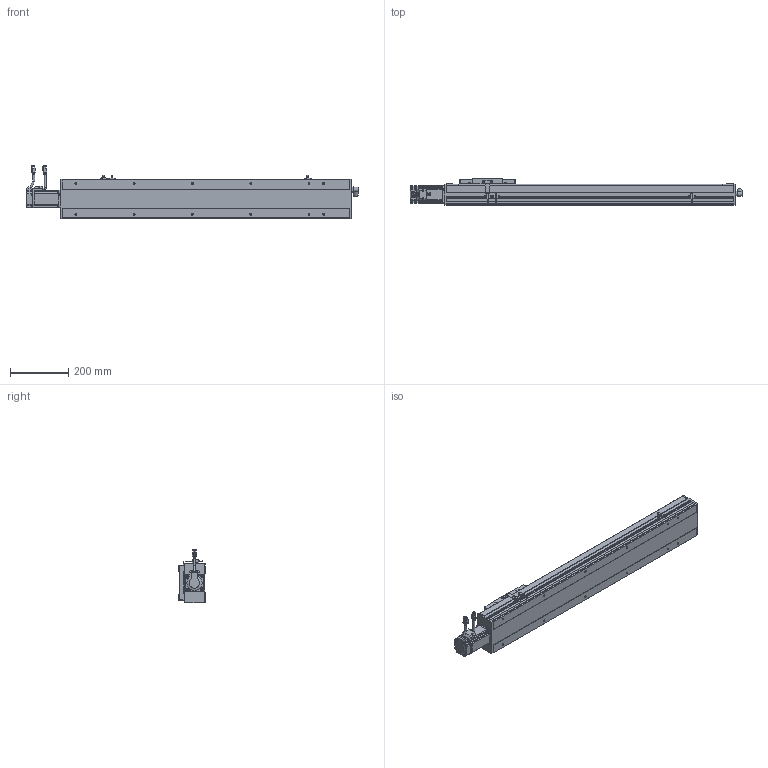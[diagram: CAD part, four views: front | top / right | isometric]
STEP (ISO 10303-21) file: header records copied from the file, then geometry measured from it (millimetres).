
FILE_DESCRIPTION(/* description */ ('STEP AP214'),/* implementation_level */ '2;1');
FILE_NAME(/* name */ 'PSC140-L05-S700-BC-P40-C1-N(0)',/* time_stamp */ '2022-06-13T03:14:54+02:00',/* author */ ('License CC BY-ND 4.0'),/* organization */ ('CADENAS'),/* preprocessor_version */ 'ST-DEVELOPER v18.102',/* originating_system */ 'PARTsolutions',/* authorisation */ ' ');
FILE_SCHEMA (('AUTOMOTIVE_DESIGN {1 0 10303 214 3 1 1}'));
Length unit declared in the file: millimetre
Products named in the file (10): PSC140-L05-S700-BC-P40-C1-N(0); P40-s2; P40-c2; P40-s1; P40-c1; P40-p1; PSC140-sensor; PSC140-BC-SLIDER; PSC140-S700-BC-P40-C1_BODY1; PSC140-L05-S700-BC-P40-C1-N(0)_dummy
Assembly tree (11 placements, depth 2):
  PSC140-L05-S700-BC-P40-C1-N(0)
    P40-s2
    P40-c2
    P40-s1
    P40-c1
    P40-p1
    PSC140-sensor  x3
    PSC140-BC-SLIDER
    PSC140-S700-BC-P40-C1_BODY1
    PSC140-L05-S700-BC-P40-C1-N(0)_dummy
Bounding box: 1139 x 91 x 182.48 mm (x, y, z)
Volume: 10193472.7 mm3; surface area: 605297.3 mm2
Topology: 10 solids, 10 shells, 1250 faces, 3220 edges, 2127 vertices
Faces by surface type: plane 866, cylinder 317, cone 48, torus 19
Full cylindrical faces by diameter (mm): 1 x8, 2.6 x10, 2.8 x3, 3.3 x8, 4.5 x12, 4.6 x3, 4.917 x16, 5 x4, 5.5 x8, 6 x10, 6.08 x4, 7 x10, 9 x2, 10 x1, 11 x1, 13.74 x1, 14 x1, 16.4 x2, 16.5 x1, 19.98 x1, 31.98 x1, 35.5 x1, 50 x2
Entity records: 34478 total; most frequent: CARTESIAN_POINT 6019, DIRECTION 5803, ORIENTED_EDGE 5582, EDGE_CURVE 2791, LINE 2109, VECTOR 2109, VERTEX_POINT 1948, AXIS2_PLACEMENT_3D 1847
